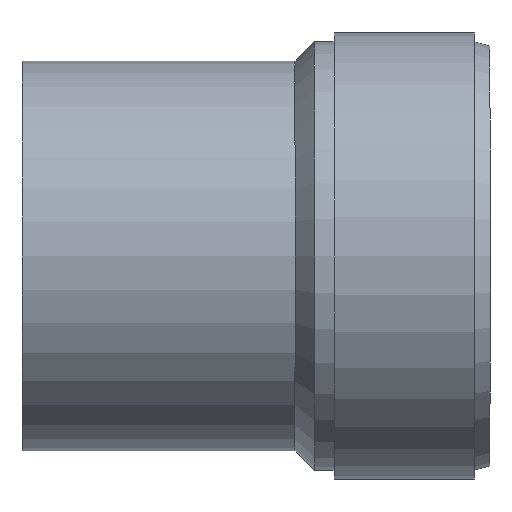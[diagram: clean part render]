
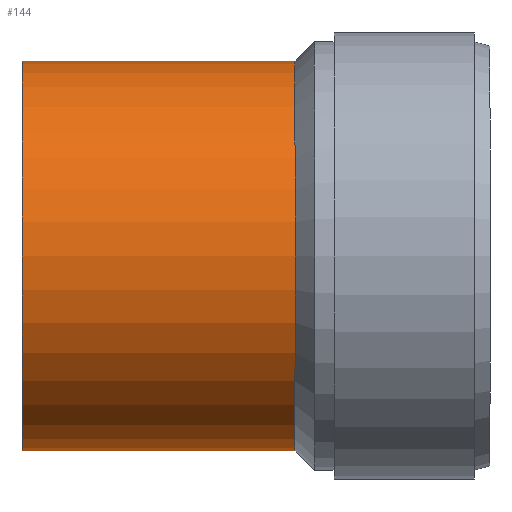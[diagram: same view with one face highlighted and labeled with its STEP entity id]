
A CAD part, front view. The second image highlights one B-rep face of the part: STEP entity #144.
In plain terms, the highlighted cylindrical face has radius 25 mm (diameter 50 mm), a full revolution.
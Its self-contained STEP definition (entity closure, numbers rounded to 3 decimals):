
#33=FACE_BOUND($,#64,.T.);
#45=FACE_OUTER_BOUND($,#63,.T.);
#63=EDGE_LOOP($,(#123));
#64=EDGE_LOOP($,(#124));
#75=CIRCLE($,#158,25.);
#80=CIRCLE($,#168,25.);
#87=VERTEX_POINT($,#237);
#92=VERTEX_POINT($,#252);
#99=EDGE_CURVE($,#87,#87,#75,.T.);
#104=EDGE_CURVE($,#92,#92,#80,.T.);
#123=ORIENTED_EDGE($,*,*,#99,.F.);
#124=ORIENTED_EDGE($,*,*,#104,.T.);
#134=CYLINDRICAL_SURFACE($,#169,25.);
#144=ADVANCED_FACE($,(#45,#33),#134,.T.);
#158=AXIS2_PLACEMENT_3D($,#238,#191,#192);
#168=AXIS2_PLACEMENT_3D($,#253,#211,#212);
#169=AXIS2_PLACEMENT_3D($,#254,#213,#214);
#191=DIRECTION('center_axis',(1.,0.,0.));
#192=DIRECTION('ref_axis',(0.,1.,0.));
#211=DIRECTION('center_axis',(1.,0.,0.));
#212=DIRECTION('ref_axis',(0.,1.,0.));
#213=DIRECTION('center_axis',(1.,0.,0.));
#214=DIRECTION('ref_axis',(0.,1.,0.));
#237=CARTESIAN_POINT('',(35.,25.,0.));
#238=CARTESIAN_POINT('Origin',(35.,0.,0.));
#252=CARTESIAN_POINT('',(0.,25.,0.));
#253=CARTESIAN_POINT('Origin',(0.,0.,
0.));
#254=CARTESIAN_POINT('Origin',(17.5,0.,0.));
